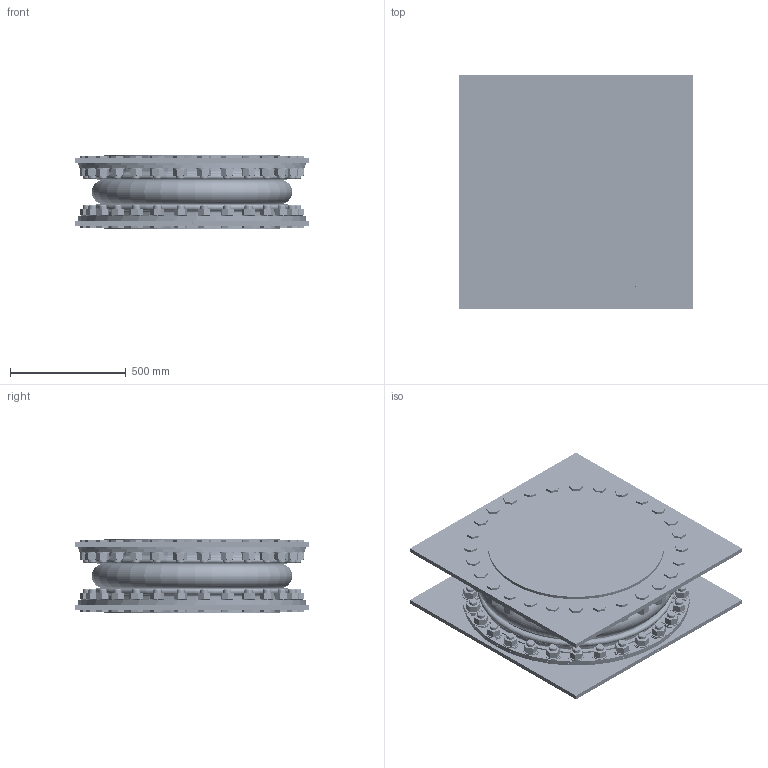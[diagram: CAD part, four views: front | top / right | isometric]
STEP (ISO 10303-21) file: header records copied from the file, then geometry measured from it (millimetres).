
FILE_DESCRIPTION(/* description */ (''),/* implementation_level */ '2;1');
FILE_NAME(/* name */ '\\Mleuckthor2\cad-proe_solids\WEBSITE FILES 05.22.13\STEP\451AS\451AS-30.stp',/* time_stamp */ '2016-01-18T22:31:26-05:00',/* author */ ('rramoutar'),/* organization */ ('Mason Industries Inc.'),/* preprocessor_version */ 'ST-DEVELOPER v15.6',/* originating_system */ 'Autodesk Inventor 2015',/* authorisation */ '');
FILE_SCHEMA (('CONFIG_CONTROL_DESIGN'));
Products named in the file (1): 451AS-30
Bounding box: 1016 x 1016 x 317.5 mm (x, y, z)
Volume: 85389755.9 mm3; surface area: 13030539.3 mm2
Topology: 176 solids, 178 shells, 4238 faces, 9706 edges, 5978 vertices
Faces by surface type: plane 1698, cylinder 1362, cone 902, bspline 202, torus 74
Full cylindrical faces by diameter (mm): 11.112 x1, 12.7 x2, 25.4 x1, 30.353 x56, 34.925 x560, 36.525 x56, 52.375 x56, 63.5 x56, 304.8 x1, 323.85 x1, 762 x4, 786.003 x2, 793.75 x2, 984.25 x4
Entity records: 116793 total; most frequent: CARTESIAN_POINT 24399, DIRECTION 18337, ORIENTED_EDGE 16748, EDGE_CURVE 8374, AXIS2_PLACEMENT_3D 7679, EDGE_LOOP 6076, VERTEX_POINT 5752, STYLED_ITEM 4414
